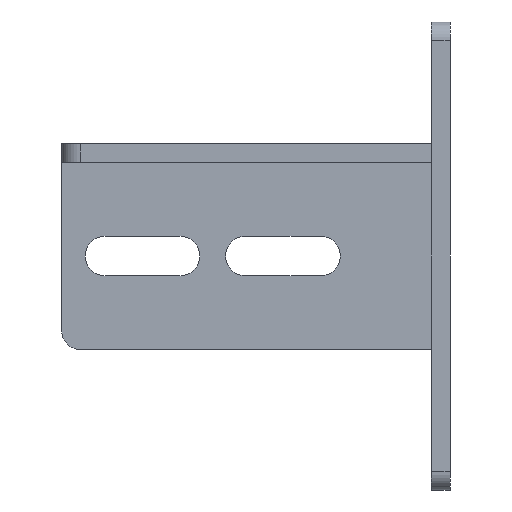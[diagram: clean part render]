
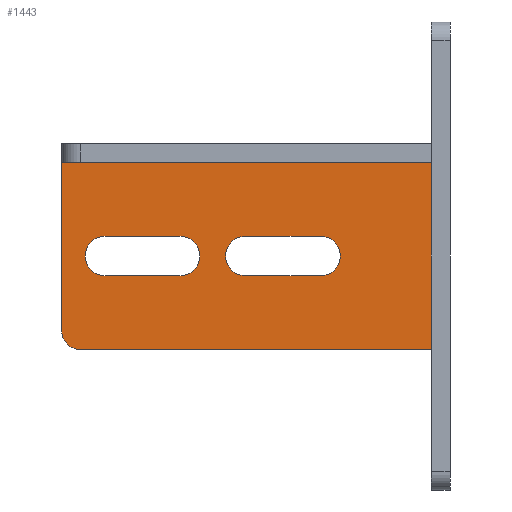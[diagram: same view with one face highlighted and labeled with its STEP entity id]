
A CAD part, left-side view. The second image highlights one B-rep face of the part: STEP entity #1443.
In plain terms, the highlighted planar face has unit normal (-1, 0, 0).
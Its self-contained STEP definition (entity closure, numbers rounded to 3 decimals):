
#11 = CIRCLE ( 'NONE', #364, 4.25 ) ;
#20 = LINE ( 'NONE', #585, #303 ) ;
#23 = CARTESIAN_POINT ( 'NONE',  ( 0., 0.25, -4.25 ) ) ;
#69 = ORIENTED_EDGE ( 'NONE', *, *, #492, .T. ) ;
#104 = EDGE_CURVE ( 'NONE', #127, #677, #2190, .T. ) ;
#127 = VERTEX_POINT ( 'NONE', #2616 ) ;
#157 = VECTOR ( 'NONE', #541, 1000. ) ;
#185 = DIRECTION ( 'NONE',  ( 0., 0., -1. ) ) ;
#193 = DIRECTION ( 'NONE',  ( 0., 0., -1. ) ) ;
#224 = AXIS2_PLACEMENT_3D ( 'NONE', #260, #2328, #1332 ) ;
#232 = DIRECTION ( 'NONE',  ( 1., 0., 0. ) ) ;
#233 = DIRECTION ( 'NONE',  ( 0., 0., -1. ) ) ;
#259 = CARTESIAN_POINT ( 'NONE',  ( 0., 0.25, 0. ) ) ;
#260 = CARTESIAN_POINT ( 'NONE',  ( 0., 0., 0. ) ) ;
#273 = EDGE_CURVE ( 'NONE', #2167, #430, #697, .T. ) ;
#279 = DIRECTION ( 'NONE',  ( 1., 0., 0. ) ) ;
#303 = VECTOR ( 'NONE', #185, 1000. ) ;
#324 = DIRECTION ( 'NONE',  ( 0., -1., 0. ) ) ;
#332 = CARTESIAN_POINT ( 'NONE',  ( 0., 30.25, 4.25 ) ) ;
#345 = ORIENTED_EDGE ( 'NONE', *, *, #104, .T. ) ;
#363 = EDGE_CURVE ( 'NONE', #503, #2413, #2106, .T. ) ;
#364 = AXIS2_PLACEMENT_3D ( 'NONE', #649, #232, #1901 ) ;
#372 = ORIENTED_EDGE ( 'NONE', *, *, #273, .T. ) ;
#373 = CARTESIAN_POINT ( 'NONE',  ( 0., 39.5, 20. ) ) ;
#411 = AXIS2_PLACEMENT_3D ( 'NONE', #1741, #1701, #2564 ) ;
#417 = VERTEX_POINT ( 'NONE', #694 ) ;
#430 = VERTEX_POINT ( 'NONE', #489 ) ;
#489 = CARTESIAN_POINT ( 'NONE',  ( 0., 35.5, -20. ) ) ;
#492 = EDGE_CURVE ( 'NONE', #417, #127, #11, .T. ) ;
#503 = VERTEX_POINT ( 'NONE', #2341 ) ;
#517 = EDGE_LOOP ( 'NONE', ( #2149, #372, #1972, #1144, #2612 ) ) ;
#541 = DIRECTION ( 'NONE',  ( 0., 1., 0. ) ) ;
#555 = EDGE_CURVE ( 'NONE', #1767, #417, #938, .T. ) ;
#575 = DIRECTION ( 'NONE',  ( 0., -1., 0. ) ) ;
#579 = EDGE_CURVE ( 'NONE', #1379, #1120, #719, .T. ) ;
#585 = CARTESIAN_POINT ( 'NONE',  ( 0., -39.5, 20. ) ) ;
#630 = CARTESIAN_POINT ( 'NONE',  ( 0., 39.5, -20. ) ) ;
#649 = CARTESIAN_POINT ( 'NONE',  ( 0., 30.25, 0. ) ) ;
#677 = VERTEX_POINT ( 'NONE', #763 ) ;
#694 = CARTESIAN_POINT ( 'NONE',  ( 0., 30.25, -4.25 ) ) ;
#696 = FACE_BOUND ( 'NONE', #2585, .T. ) ;
#697 = CIRCLE ( 'NONE', #2215, 4. ) ;
#719 = LINE ( 'NONE', #1776, #1939 ) ;
#763 = CARTESIAN_POINT ( 'NONE',  ( 0., 14.25, 4.25 ) ) ;
#800 = EDGE_CURVE ( 'NONE', #1188, #430, #1895, .T. ) ;
#935 = CARTESIAN_POINT ( 'NONE',  ( 0., 14.25, -4.25 ) ) ;
#938 = LINE ( 'NONE', #1525, #157 ) ;
#1000 = LINE ( 'NONE', #1035, #2208 ) ;
#1018 = CARTESIAN_POINT ( 'NONE',  ( 0., 35.5, -16. ) ) ;
#1035 = CARTESIAN_POINT ( 'NONE',  ( 0., 39.5, 20. ) ) ;
#1043 = DIRECTION ( 'NONE',  ( 0., 1., 0. ) ) ;
#1049 = CARTESIAN_POINT ( 'NONE',  ( 0., 0.25, 4.25 ) ) ;
#1081 = CARTESIAN_POINT ( 'NONE',  ( 0., -15.75, 0. ) ) ;
#1084 = CARTESIAN_POINT ( 'NONE',  ( 0., -39.5, 20. ) ) ;
#1120 = VERTEX_POINT ( 'NONE', #1967 ) ;
#1144 = ORIENTED_EDGE ( 'NONE', *, *, #2329, .F. ) ;
#1164 = DIRECTION ( 'NONE',  ( 0., -1., 0. ) ) ;
#1188 = VERTEX_POINT ( 'NONE', #2581 ) ;
#1332 = DIRECTION ( 'NONE',  ( 0., 0., -1. ) ) ;
#1334 = DIRECTION ( 'NONE',  ( 0., 0., -1. ) ) ;
#1379 = VERTEX_POINT ( 'NONE', #1049 ) ;
#1443 = ADVANCED_FACE ( 'NONE', ( #2142, #696, #2124 ), #2344, .F. ) ;
#1447 = DIRECTION ( 'NONE',  ( -1., 0., 0. ) ) ;
#1449 = ORIENTED_EDGE ( 'NONE', *, *, #363, .T. ) ;
#1511 = ORIENTED_EDGE ( 'NONE', *, *, #1981, .T. ) ;
#1525 = CARTESIAN_POINT ( 'NONE',  ( 0., 30.25, -4.25 ) ) ;
#1599 = VERTEX_POINT ( 'NONE', #1084 ) ;
#1618 = ORIENTED_EDGE ( 'NONE', *, *, #2442, .T. ) ;
#1698 = VECTOR ( 'NONE', #2478, 1000. ) ;
#1701 = DIRECTION ( 'NONE',  ( 1., 0., 0. ) ) ;
#1741 = CARTESIAN_POINT ( 'NONE',  ( 0., 14.25, 0. ) ) ;
#1754 = VECTOR ( 'NONE', #2522, 1000. ) ;
#1756 = CARTESIAN_POINT ( 'NONE',  ( 0., 39.5, -16. ) ) ;
#1767 = VERTEX_POINT ( 'NONE', #935 ) ;
#1771 = AXIS2_PLACEMENT_3D ( 'NONE', #1081, #279, #1334 ) ;
#1776 = CARTESIAN_POINT ( 'NONE',  ( 0., 0.25, 4.25 ) ) ;
#1802 = VERTEX_POINT ( 'NONE', #373 ) ;
#1860 = LINE ( 'NONE', #2677, #1698 ) ;
#1895 = LINE ( 'NONE', #630, #1754 ) ;
#1901 = DIRECTION ( 'NONE',  ( 0., 0., -1. ) ) ;
#1938 = ORIENTED_EDGE ( 'NONE', *, *, #579, .T. ) ;
#1939 = VECTOR ( 'NONE', #324, 1000. ) ;
#1946 = CARTESIAN_POINT ( 'NONE',  ( 0., 0.25, -4.25 ) ) ;
#1967 = CARTESIAN_POINT ( 'NONE',  ( 0., -15.75, 4.25 ) ) ;
#1972 = ORIENTED_EDGE ( 'NONE', *, *, #800, .F. ) ;
#1981 = EDGE_CURVE ( 'NONE', #677, #1767, #2029, .T. ) ;
#2010 = EDGE_CURVE ( 'NONE', #1120, #503, #2277, .T. ) ;
#2029 = CIRCLE ( 'NONE', #411, 4.25 ) ;
#2043 = AXIS2_PLACEMENT_3D ( 'NONE', #259, #2343, #233 ) ;
#2106 = LINE ( 'NONE', #23, #2611 ) ;
#2121 = CIRCLE ( 'NONE', #2043, 4.25 ) ;
#2124 = FACE_OUTER_BOUND ( 'NONE', #517, .T. ) ;
#2142 = FACE_BOUND ( 'NONE', #2598, .T. ) ;
#2149 = ORIENTED_EDGE ( 'NONE', *, *, #2335, .F. ) ;
#2167 = VERTEX_POINT ( 'NONE', #1756 ) ;
#2177 = ORIENTED_EDGE ( 'NONE', *, *, #2010, .T. ) ;
#2190 = LINE ( 'NONE', #332, #2220 ) ;
#2208 = VECTOR ( 'NONE', #575, 1000. ) ;
#2215 = AXIS2_PLACEMENT_3D ( 'NONE', #1018, #1447, #193 ) ;
#2220 = VECTOR ( 'NONE', #1164, 1000. ) ;
#2277 = CIRCLE ( 'NONE', #1771, 4.25 ) ;
#2303 = EDGE_CURVE ( 'NONE', #1802, #1599, #1000, .T. ) ;
#2328 = DIRECTION ( 'NONE',  ( 1., 0., 0. ) ) ;
#2329 = EDGE_CURVE ( 'NONE', #1599, #1188, #20, .T. ) ;
#2335 = EDGE_CURVE ( 'NONE', #2167, #1802, #1860, .T. ) ;
#2341 = CARTESIAN_POINT ( 'NONE',  ( 0., -15.75, -4.25 ) ) ;
#2343 = DIRECTION ( 'NONE',  ( 1., 0., 0. ) ) ;
#2344 = PLANE ( 'NONE',  #224 ) ;
#2353 = ORIENTED_EDGE ( 'NONE', *, *, #555, .T. ) ;
#2413 = VERTEX_POINT ( 'NONE', #1946 ) ;
#2442 = EDGE_CURVE ( 'NONE', #2413, #1379, #2121, .T. ) ;
#2478 = DIRECTION ( 'NONE',  ( 0., 0., 1. ) ) ;
#2522 = DIRECTION ( 'NONE',  ( 0., 1., 0. ) ) ;
#2564 = DIRECTION ( 'NONE',  ( 0., 0., -1. ) ) ;
#2581 = CARTESIAN_POINT ( 'NONE',  ( 0., -39.5, -20. ) ) ;
#2585 = EDGE_LOOP ( 'NONE', ( #1449, #1618, #1938, #2177 ) ) ;
#2598 = EDGE_LOOP ( 'NONE', ( #2353, #69, #345, #1511 ) ) ;
#2611 = VECTOR ( 'NONE', #1043, 1000. ) ;
#2612 = ORIENTED_EDGE ( 'NONE', *, *, #2303, .F. ) ;
#2616 = CARTESIAN_POINT ( 'NONE',  ( 0., 30.25, 4.25 ) ) ;
#2677 = CARTESIAN_POINT ( 'NONE',  ( 0., 39.5, 20. ) ) ;
